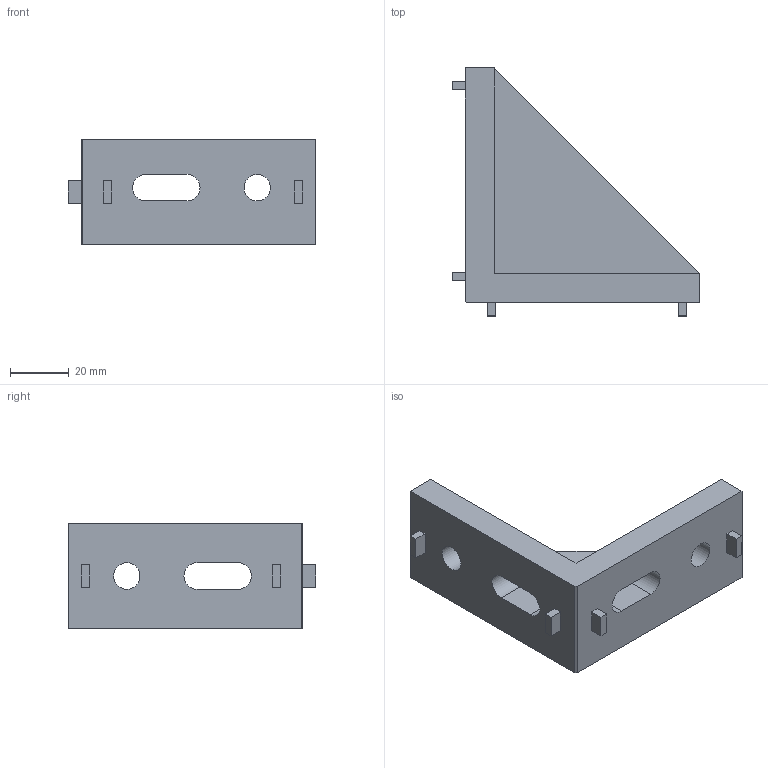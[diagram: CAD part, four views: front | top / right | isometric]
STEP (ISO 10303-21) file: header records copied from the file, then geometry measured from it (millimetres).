
FILE_DESCRIPTION((''),'2;1');
FILE_NAME('E:\catalogue and flyer\Profile catalogue 2015\Accessories JE info\Accessories-JE step file 31MAr16\JE-GE4080-8.stp','2016-03-31T15:36:02',('h029'),(''),'Autodesk Inventor 11','Autodesk Inventor 11','');
FILE_SCHEMA(('AUTOMOTIVE_DESIGN { 1 0 10303 214 1 1 1 1 }'));
Length unit declared in the file: millimetre
Products named in the file (1): JE-GE4080-8
Bounding box: 84.5 x 84.5 x 36 mm (x, y, z)
Volume: 64023.9 mm3; surface area: 20222.8 mm2
Topology: 1 solids, 1 shells, 41 faces, 104 edges, 69 vertices
Faces by surface type: plane 35, cylinder 6
Full cylindrical faces by diameter (mm): 9 x2
Entity records: 1242 total; most frequent: CARTESIAN_POINT 211, ORIENTED_EDGE 202, DIRECTION 197, EDGE_CURVE 101, VECTOR 89, LINE 89, VERTEX_POINT 68, EDGE_LOOP 55
